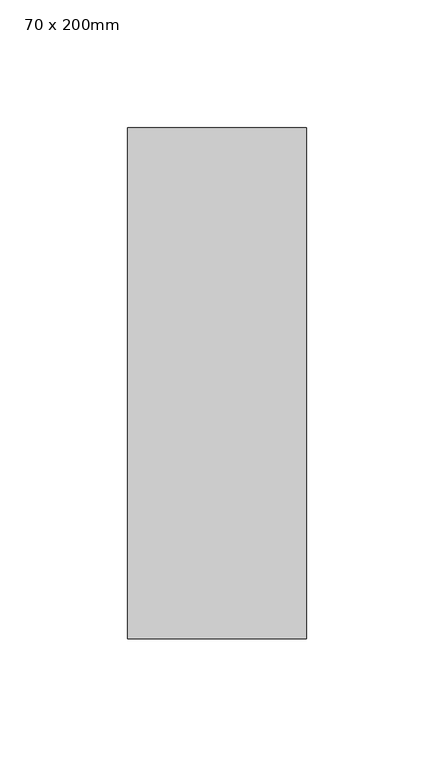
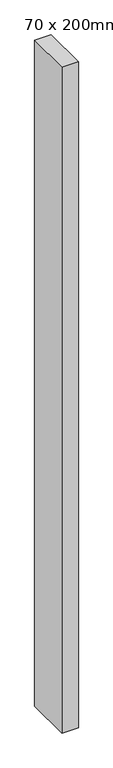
"""IFC4 building model written with IfcOpenShell, lengths in millimetres: member geometry, 矩形竖梃 : 70 x 200mm."""

from ifc_helpers import new_model, si_unit, frame, origin, place, context, project, spatial, polyline, outline, extrude, source, transform, mapped, element, save


def member_70_x_200mm_b993ec4f(model_context):
    return source(origin(), model_context, "Body", "SweptSolid", [
        extrude(outline(polyline([(35.0, 100.0), (35.0, -100.0), (-35.0, -100.0), (-35.0, 100.0), (35.0, 100.0)])), frame((0.0, 0.0, -2990.0), z_axis=(0.0, 0.0, 1.0), x_axis=(1.0, 0.0, 0.0)), (0.0, 0.0, 1.0), 2990.0),
    ])


if __name__ == "__main__":
    model = new_model("IFC4")
    model_context = context("Model", 3, world=origin())
    ifc_project = project(units=[si_unit("LENGTHUNIT", "METRE", prefix="MILLI")], contexts=[model_context])
    site = spatial("IfcSite", under=ifc_project)
    building = spatial("IfcBuilding", under=site)
    placement = place(None, origin())
    member_70_x_200mm_shape = member_70_x_200mm_b993ec4f(model_context)
    element("IfcMember", 1, ObjectType="矩形竖梃 : 70 x 200mm", at=placement, inside=building, context=model_context, shape_type="MappedRepresentation", body=[
        mapped(member_70_x_200mm_shape, transform((0.0, 0.0, 0.0), x_axis=(1.0, 0.0, 0.0), y_axis=(0.0, 1.0, 0.0), z_axis=(0.0, 0.0, 1.0))),
    ])
    save(model, "model.ifc")
